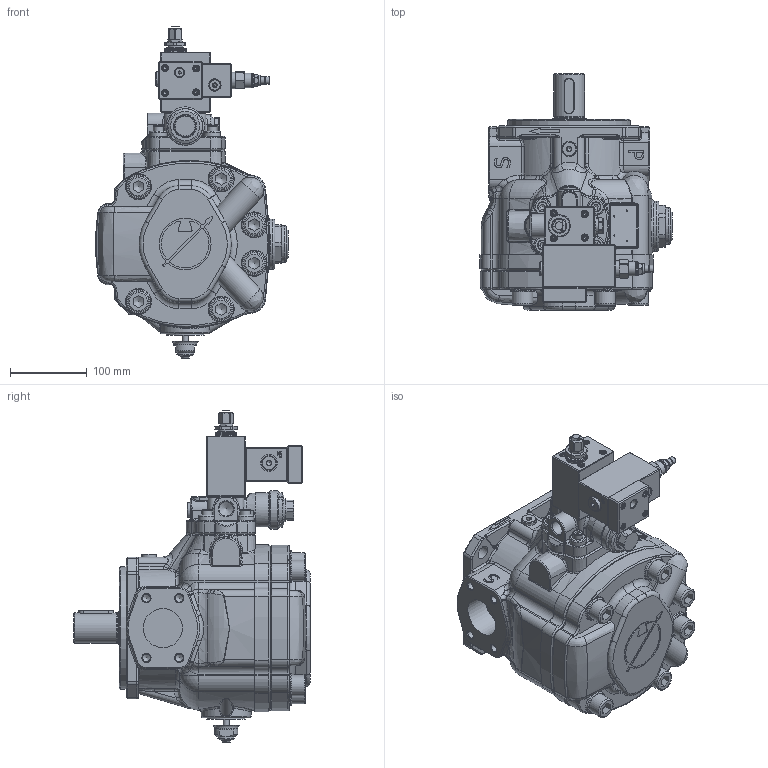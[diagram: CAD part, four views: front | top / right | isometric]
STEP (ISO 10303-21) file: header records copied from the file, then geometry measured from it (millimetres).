
FILE_DESCRIPTION(/* description */ (''),/* implementation_level */ '2;1');
FILE_NAME(/* name */ 'C:\Users\marcop\Desktop\01 PHPK 3 FHRM PCS002.stp',/* time_stamp */ '2019-11-21T10:45:18+01:00',/* author */ ('marcop'),/* organization */ (''),/* preprocessor_version */ 'ST-DEVELOPER v17',/* originating_system */ 'Autodesk Inventor 2018',/* authorisation */ '');
FILE_SCHEMA (('AUTOMOTIVE_DESIGN { 1 0 10303 214 3 1 1 }'));
Products named in the file (1): PLP-PHP 3_Shrinkwrap_1
Bounding box: 251.18 x 308 x 433.1 mm (x, y, z)
Volume: 7349160.7 mm3; surface area: 583068.9 mm2
Topology: 2 solids, 2 shells, 2482 faces, 6316 edges, 3907 vertices
Faces by surface type: plane 922, cylinder 551, bspline 459, cone 270, torus 236, sphere 44
Full cylindrical faces by diameter (mm): 1.7 x4, 3 x2, 3.15 x1, 4 x2, 6 x2, 6.5 x1, 7.2 x1, 7.671 x2, 8 x1, 8.376 x4, 8.5 x8, 9 x4, 9.347 x2, 9.5 x5, 10.106 x4, 11.445 x2, 12 x5, 13 x4, 13.487 x1, 13.5 x1, 13.767 x2, 14 x3, 14.63 x1, 15.5 x1, 16 x2, 17.399 x1, 17.5 x1, 17.78 x1, 18 x4, 18.631 x1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
Entity records: 91826 total; most frequent: CARTESIAN_POINT 32362, ORIENTED_EDGE 12460, DIRECTION 11282, EDGE_CURVE 6230, AXIS2_PLACEMENT_3D 4373, VERTEX_POINT 3907, EDGE_LOOP 2647, LINE 2536
